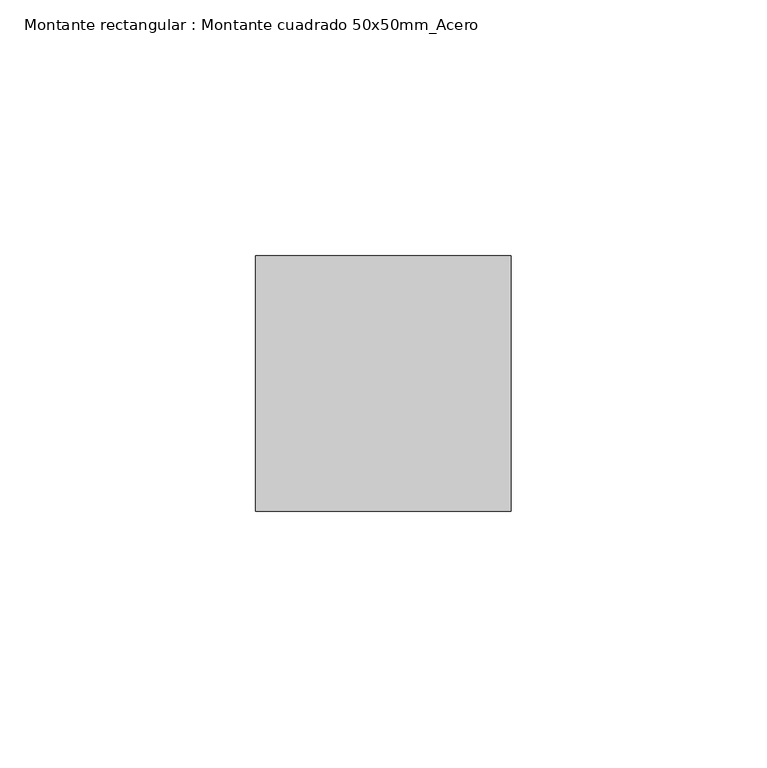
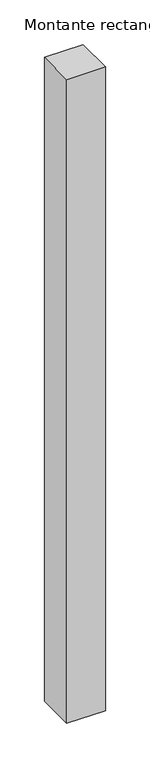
"""IFC4 building model written with IfcOpenShell, lengths in millimetres: member geometry, Montante rectangular : Montante cuadrado 50x50mm_Acero."""

from ifc_helpers import new_model, si_unit, frame, origin, place, context, project, spatial, polyline, outline, extrude, source, transform, mapped, element, save


def montante_rectangular_montante_cuadrado_50x50mm_acero_b4ac1162(model_context):
    return source(origin(), model_context, "Body", "SweptSolid", [
        extrude(outline(polyline([(-50.0, 0.0), (0.0, 0.0), (0.0, -50.0), (-50.0, -50.0), (-50.0, 0.0)])), frame((0.0, 0.0, -880.0), z_axis=(0.0, 0.0, 1.0), x_axis=(1.0, 0.0, 0.0)), (0.0, 0.0, 1.0), 880.0),
    ])


if __name__ == "__main__":
    model = new_model("IFC4")
    model_context = context("Model", 3, world=origin())
    ifc_project = project(units=[si_unit("LENGTHUNIT", "METRE", prefix="MILLI")], contexts=[model_context])
    site = spatial("IfcSite", under=ifc_project)
    building = spatial("IfcBuilding", under=site)
    placement = place(None, origin())
    montante_rectangular_montante_cuadrado_50x50mm_acero_shape = montante_rectangular_montante_cuadrado_50x50mm_acero_b4ac1162(model_context)
    element("IfcMember", 1, ObjectType="Montante rectangular : Montante cuadrado 50x50mm_Acero", at=placement, inside=building, context=model_context, shape_type="MappedRepresentation", body=[
        mapped(montante_rectangular_montante_cuadrado_50x50mm_acero_shape, transform((0.0, 0.0, 0.0), x_axis=(1.0, 0.0, 0.0), y_axis=(0.0, 1.0, 0.0), z_axis=(0.0, 0.0, 1.0))),
    ])
    save(model, "model.ifc")
